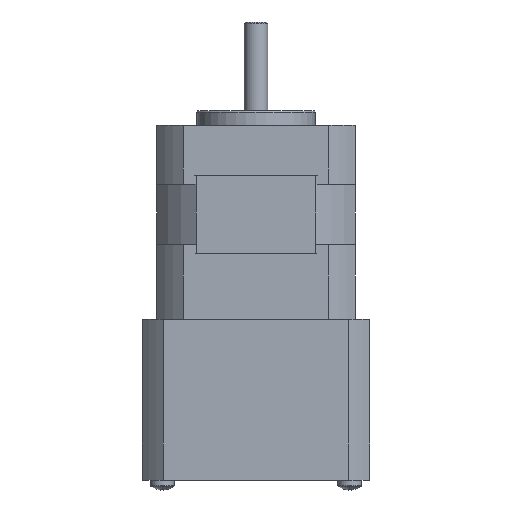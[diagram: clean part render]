
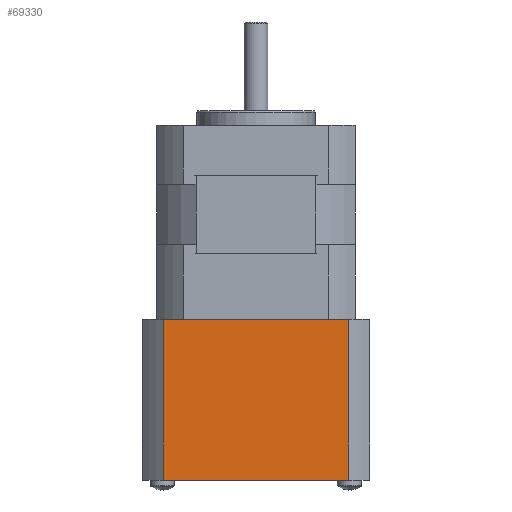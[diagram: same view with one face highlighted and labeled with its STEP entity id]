
A CAD part, front view. The second image highlights one B-rep face of the part: STEP entity #69330.
In plain terms, the highlighted planar face has unit normal (0, -1, 0).
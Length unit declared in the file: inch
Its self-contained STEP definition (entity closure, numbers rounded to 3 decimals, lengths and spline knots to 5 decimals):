
#54297 = DIRECTION ( 'NONE',  ( 0., 0., 1. ) ) ;
#54299 = VECTOR ( 'NONE', #54297, 39.37008 ) ;
#54316 = CARTESIAN_POINT ( 'NONE',  ( 0.77235, -0.945, -1.339 ) ) ;
#54317 = LINE ( 'NONE', #54316, #54299 ) ;
#54504 = DIRECTION ( 'NONE',  ( 0., 0., 1. ) ) ;
#54505 = VECTOR ( 'NONE', #54504, 39.37008 ) ;
#54506 = CARTESIAN_POINT ( 'NONE',  ( -0.77235, -0.945, -1.339 ) ) ;
#54507 = CARTESIAN_POINT ( 'NONE',  ( 0.77235, -0.945, -1.339 ) ) ;
#54522 = LINE ( 'NONE', #54506, #54505 ) ;
#54524 = PLANE ( 'NONE',  #54676 ) ;
#54549 = CARTESIAN_POINT ( 'NONE',  ( -0.77235, -0.945, -1.339 ) ) ;
#54603 = FACE_OUTER_BOUND ( 'NONE', #69329, .T. ) ;
#54604 = DIRECTION ( 'NONE',  ( 1., 0., 0. ) ) ;
#54605 = VECTOR ( 'NONE', #54604, 39.37008 ) ;
#54606 = CARTESIAN_POINT ( 'NONE',  ( -0.77235, -0.945, 0. ) ) ;
#54610 = LINE ( 'NONE', #54606, #54605 ) ;
#54612 = CARTESIAN_POINT ( 'NONE',  ( -0.77235, -0.945, 0. ) ) ;
#54650 = DIRECTION ( 'NONE',  ( 1., 0., 0. ) ) ;
#54651 = VECTOR ( 'NONE', #54650, 39.37008 ) ;
#54660 = CARTESIAN_POINT ( 'NONE',  ( -0.77235, -0.945, -1.339 ) ) ;
#54662 = LINE ( 'NONE', #54660, #54651 ) ;
#54665 = CARTESIAN_POINT ( 'NONE',  ( 0.77235, -0.945, 0. ) ) ;
#54670 = DIRECTION ( 'NONE',  ( 1., 0., 0. ) ) ;
#54672 = DIRECTION ( 'NONE',  ( 0., -1., 0. ) ) ;
#54674 = CARTESIAN_POINT ( 'NONE',  ( -0.77235, -0.945, -1.339 ) ) ;
#54676 = AXIS2_PLACEMENT_3D ( 'NONE', #54674, #54672, #54670 ) ;
#68630 = ORIENTED_EDGE ( 'NONE', *, *, #69335, .T. ) ;
#69286 = EDGE_CURVE ( 'NONE', #69338, #69339, #54317, .T. ) ;
#69322 = EDGE_CURVE ( 'NONE', #69323, #69326, #54522, .T. ) ;
#69323 = VERTEX_POINT ( 'NONE', #54549 ) ;
#69324 = EDGE_CURVE ( 'NONE', #69326, #69339, #54610, .T. ) ;
#69325 = ORIENTED_EDGE ( 'NONE', *, *, #69286, .T. ) ;
#69326 = VERTEX_POINT ( 'NONE', #54612 ) ;
#69329 = EDGE_LOOP ( 'NONE', ( #69331, #69334, #68630, #69325 ) ) ;
#69330 = ADVANCED_FACE ( 'NONE', ( #54603 ), #54524, .T. ) ;
#69331 = ORIENTED_EDGE ( 'NONE', *, *, #69324, .F. ) ;
#69334 = ORIENTED_EDGE ( 'NONE', *, *, #69322, .F. ) ;
#69335 = EDGE_CURVE ( 'NONE', #69323, #69338, #54662, .T. ) ;
#69338 = VERTEX_POINT ( 'NONE', #54507 ) ;
#69339 = VERTEX_POINT ( 'NONE', #54665 ) ;
